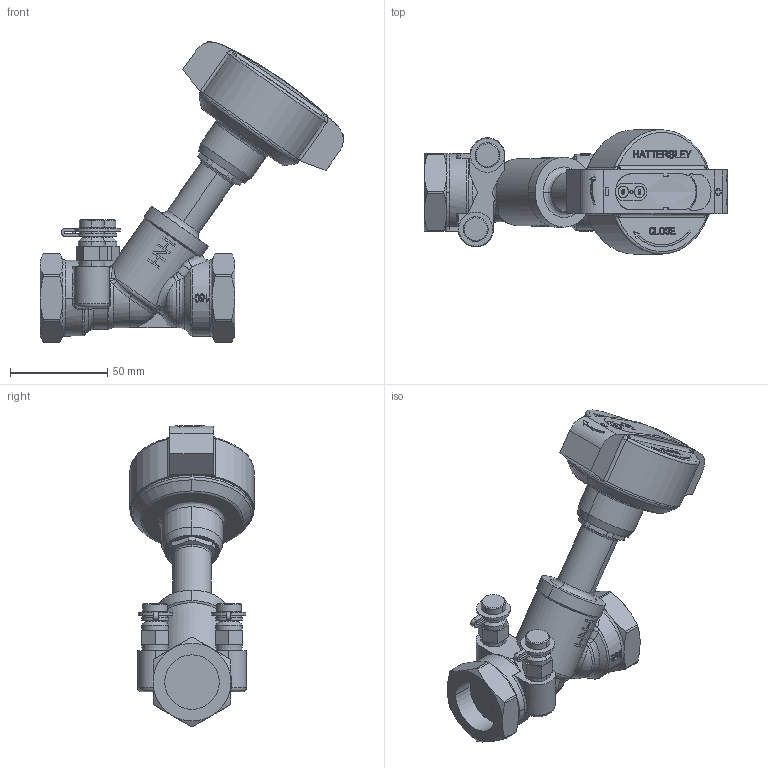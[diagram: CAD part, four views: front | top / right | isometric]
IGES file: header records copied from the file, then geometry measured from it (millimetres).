
Global section: file name: No Iges File Name specified; native system: AutoDesk Inventor R12.0; preprocessor: AutoDesk Inventor Iges Exporter R12.0; date: 20110307.125531; units: millimetre
Bounding box: 155.97 x 63.85 x 154.55 mm (x, y, z)
Volume: 274895.5 mm3; surface area: 42754 mm2
Topology: 1 solids, 1 shells, 738 faces, 1929 edges, 1252 vertices
Faces by surface type: plane 330, bspline 223, cylinder 101, cone 47, revolution 20, torus 15, sphere 2
